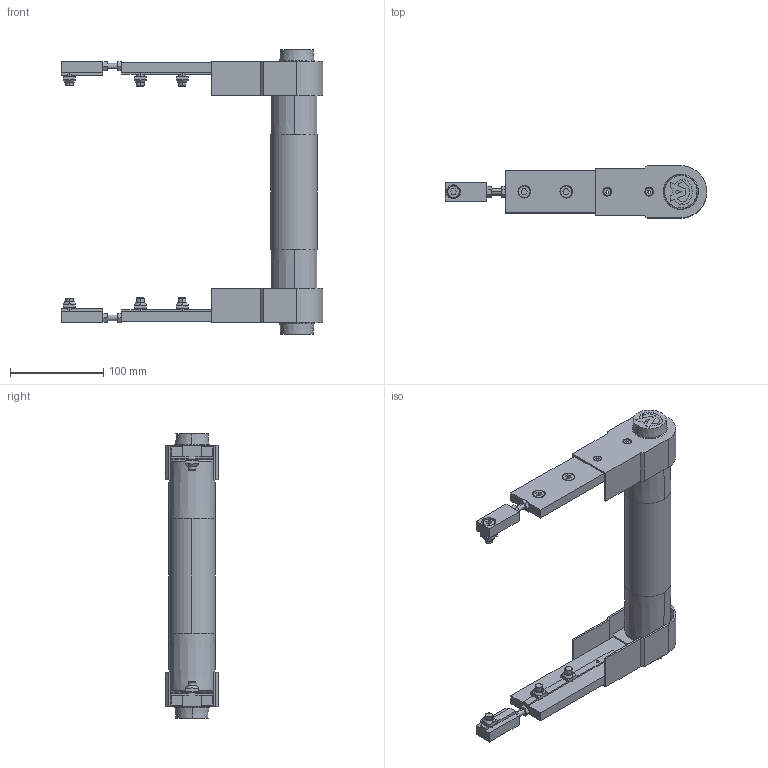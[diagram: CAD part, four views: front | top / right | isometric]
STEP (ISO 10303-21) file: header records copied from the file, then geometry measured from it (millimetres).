
FILE_DESCRIPTION (( 'STEP AP203' ), '1' );
FILE_NAME ('084.050.KIS.225.STEP', '2016-10-17T09:23:32', ( '' ), ( '' ), 'SwSTEP 2.0', 'SolidWorks 2016', '' );
FILE_SCHEMA (( 'CONFIG_CONTROL_DESIGN' ));
Length unit declared in the file: millimetre
Products named in the file (1): 084.050.KIS.225
Bounding box: 281 x 56 x 305 mm (x, y, z)
Surface area: 154731.7 mm2 (no closed solid volume)
Topology: 0 solids, 37 shells, 429 faces, 1271 edges, 870 vertices
Faces by surface type: plane 271, cylinder 74, cone 40, torus 32, bspline 12
Entity records: 14736 total; most frequent: CARTESIAN_POINT 3187, DIRECTION 2401, ORIENTED_EDGE 2194, EDGE_CURVE 1271, VERTEX_POINT 870, LINE 809, VECTOR 809, AXIS2_PLACEMENT_3D 796
